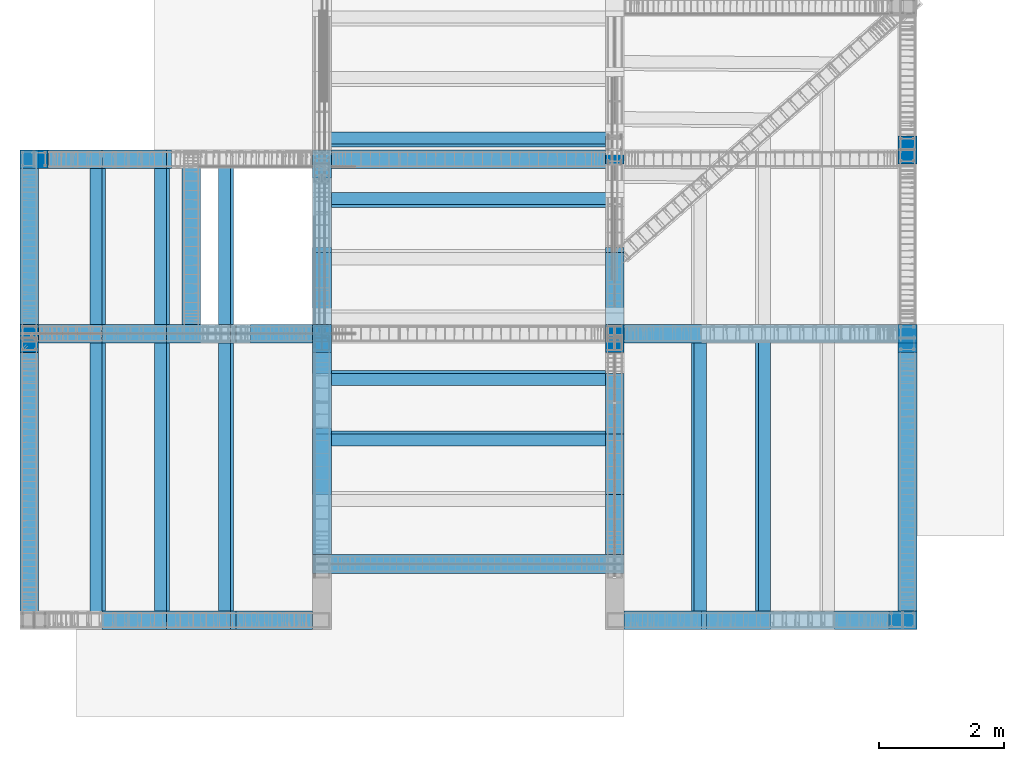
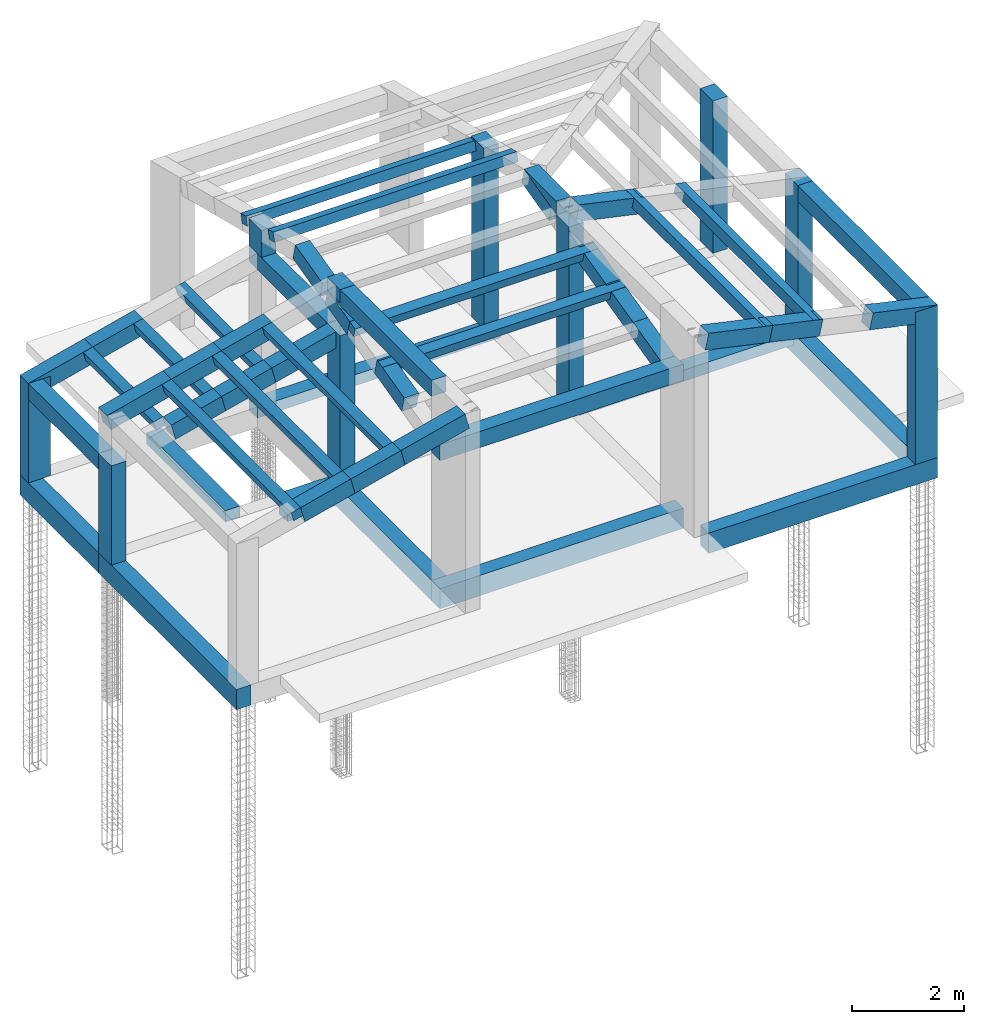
# One storey, part 1 of 15: 50 beams, 10 columns.
"""IFC4 building model written with IfcOpenShell, lengths in metres."""

from ifc_helpers import new_model, si_unit, frame, frame_2d, origin_with_axes, origin_2d_with_axis, place, context, project, spatial, rectangle, extrude, material, material_profile, profile_set, profile_usage, type_object, element, save


model = new_model("IFC4")

# Units and contexts
model_context = context("Model", 3, precision=1e-05, world=origin_with_axes())
ifc_project = project(units=[si_unit("LENGTHUNIT", "METRE"), si_unit("AREAUNIT", "SQUARE_METRE"), si_unit("VOLUMEUNIT", "CUBIC_METRE"), si_unit("MASSUNIT", "GRAM", prefix="KILO"), si_unit("TIMEUNIT", "SECOND"), si_unit("PLANEANGLEUNIT", "RADIAN"), si_unit("SOLIDANGLEUNIT", "STERADIAN"), si_unit("THERMODYNAMICTEMPERATUREUNIT", "DEGREE_CELSIUS")], contexts=[model_context])

# Site, building, storey
placement_1 = place(None, origin_with_axes())
site = spatial("IfcSite", under=ifc_project, at=placement_1, Name="Italia", CompositionType="ELEMENT")
building = spatial("IfcBuilding", under=site, at=placement_1, Name="Bifamiliare", CompositionType="ELEMENT")
storey_placement = place(None, frame((0.0, 0.0, 5.949999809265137), z_axis=(0.0, 0.0, 1.0), x_axis=(1.0, 0.0, 0.0)))
storey = spatial("IfcBuildingStorey", under=building, at=storey_placement, Name="Storey 2", CompositionType="ELEMENT", Elevation=5.949999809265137)

# Columns
ifc_material_1 = material(Name="Calcestruzzo", Category="Calcestruzzo")
ifc_material_profile_1 = material_profile(ifc_material_1, rectangle(XDim=0.3, YDim=0.55, at=frame_2d((0.0, 0.0), x_axis=(0.0, 1.0))), Name="9 Pil 55x30")
ifc_profile_set_1 = profile_set([ifc_material_profile_1])
ifc_profile_usage_1 = profile_usage(ifc_profile_set_1, cardinal=3)
column_type_1 = type_object("IfcColumnType", Name="8 Pil 30x45", PredefinedType="COLUMN", material=ifc_profile_usage_1)
placement_2 = place(placement_1, origin_with_axes())
column_1_placement = place(placement_2, origin_with_axes())
element("IfcColumn", 1, at=column_1_placement, inside=storey, type_object=column_type_1, Name="7", context=model_context, shape_type="SweptSolid", body=[
    extrude(rectangle(XDim=0.3, YDim=0.45, at=origin_2d_with_axis()), frame((1.325, 8.95, 5.95), z_axis=(0.0, 0.0, 1.0), x_axis=(0.0, 1.0, 0.0)), (0.0, 0.0, 1.0), 2.16),
])
ifc_profile_usage_2 = profile_usage(ifc_profile_set_1, cardinal=7)
column_type_2 = type_object("IfcColumnType", Name="8 Pil 30x45", PredefinedType="COLUMN", material=ifc_profile_usage_2)
column_2_placement = place(placement_2, origin_with_axes())
element("IfcColumn", 2, at=column_2_placement, inside=storey, type_object=column_type_2, Name="2", context=model_context, shape_type="SweptSolid", body=[
    extrude(rectangle(XDim=0.3, YDim=0.45, at=origin_2d_with_axis()), frame((15.275, 1.55, 5.95), z_axis=(0.0, 0.0, 1.0), x_axis=(0.0, 1.0, 0.0)), (0.0, 0.0, 1.0), 3.31),
])
ifc_profile_usage_3 = profile_usage(ifc_profile_set_1, cardinal=3)
column_type_3 = type_object("IfcColumnType", Name="7 Pil 45x30", PredefinedType="COLUMN", material=ifc_profile_usage_3)
column_3_placement = place(placement_2, origin_with_axes())
element("IfcColumn", 3, at=column_3_placement, inside=storey, type_object=column_type_3, Name="3", context=model_context, shape_type="SweptSolid", body=[
    extrude(rectangle(XDim=0.3, YDim=0.45, at=frame_2d((0.0, 0.0), x_axis=(0.0, 1.0))), frame((1.25, 6.075, 5.95), z_axis=(0.0, 0.0, 1.0), x_axis=(0.0, 1.0, 0.0)), (0.0, 0.0, 1.0), 2.16),
])
ifc_profile_usage_4 = profile_usage(ifc_profile_set_1, cardinal=9)
column_type_4 = type_object("IfcColumnType", Name="7 Pil 45x30", PredefinedType="COLUMN", material=ifc_profile_usage_4)
column_4_placement = place(placement_2, origin_with_axes())
element("IfcColumn", 4, at=column_4_placement, inside=storey, type_object=column_type_4, Name="6", context=model_context, shape_type="SweptSolid", body=[
    extrude(rectangle(XDim=0.3, YDim=0.45, at=frame_2d((0.0, 0.0), x_axis=(0.0, 1.0))), frame((15.35, 6.075, 5.95), z_axis=(0.0, 0.0, 1.0), x_axis=(0.0, 1.0, 0.0)), (0.0, 0.0, 1.0), 3.31),
])
ifc_profile_usage_5 = profile_usage(ifc_profile_set_1, cardinal=8)
column_type_5 = type_object("IfcColumnType", Name="7 Pil 45x30", PredefinedType="COLUMN", material=ifc_profile_usage_5)
column_5_placement = place(placement_2, origin_with_axes())
element("IfcColumn", 5, at=column_5_placement, inside=storey, type_object=column_type_5, Name="10", context=model_context, shape_type="SweptSolid", body=[
    extrude(rectangle(XDim=0.3, YDim=0.45, at=frame_2d((0.0, 0.0), x_axis=(0.0, 1.0))), frame((15.35, 9.1, 5.95), z_axis=(0.0, 0.0, 1.0), x_axis=(0.0, 1.0, 0.0)), (0.0, 0.0, 1.0), 3.31),
])
ifc_profile_usage_6 = profile_usage(ifc_profile_set_1, cardinal=3)
column_type_6 = type_object("IfcColumnType", Name="7 Pil 45x30", PredefinedType="COLUMN", material=ifc_profile_usage_6)
column_6_placement = place(placement_2, origin_with_axes())
element("IfcColumn", 6, at=column_6_placement, inside=storey, type_object=column_type_6, Name="8", context=model_context, shape_type="SweptSolid", body=[
    extrude(rectangle(XDim=0.3, YDim=0.45, at=frame_2d((0.0, 0.0), x_axis=(0.0, 1.0))), frame((5.95, 8.875, 9.29), z_axis=(0.0, 0.0, 1.0), x_axis=(0.0, 1.0, 0.0)), (0.0, 0.0, 1.0), 0.586699),
])
ifc_profile_usage_7 = profile_usage(ifc_profile_set_1, cardinal=3)
column_type_7 = type_object("IfcColumnType", Name="7 Pil 45x30", PredefinedType="COLUMN", material=ifc_profile_usage_7)
column_7_placement = place(placement_2, origin_with_axes())
element("IfcColumn", 7, at=column_7_placement, inside=storey, type_object=column_type_7, Name="4", context=model_context, shape_type="SweptSolid", body=[
    extrude(rectangle(XDim=0.3, YDim=0.45, at=frame_2d((0.0, 0.0), x_axis=(0.0, 1.0))), frame((5.95, 6.075, 5.95), z_axis=(0.0, 0.0, 1.0), x_axis=(0.0, 1.0, 0.0)), (0.0, 0.0, 1.0), 3.34),
])
ifc_profile_usage_8 = profile_usage(ifc_profile_set_1, cardinal=3)
column_type_8 = type_object("IfcColumnType", Name="7 Pil 45x30", PredefinedType="COLUMN", material=ifc_profile_usage_8)
column_8_placement = place(placement_2, origin_with_axes())
element("IfcColumn", 8, at=column_8_placement, inside=storey, type_object=column_type_8, Name="4", context=model_context, shape_type="SweptSolid", body=[
    extrude(rectangle(XDim=0.3, YDim=0.45, at=frame_2d((0.0, 0.0), x_axis=(0.0, 1.0))), frame((5.95, 6.075, 10.0021), z_axis=(0.0, 0.0, 1.0), x_axis=(0.0, 1.0, 0.0)), (0.0, 0.0, 1.0), 0.287938),
])
ifc_profile_usage_9 = profile_usage(ifc_profile_set_1, cardinal=9)
column_type_9 = type_object("IfcColumnType", Name="7 Pil 45x30", PredefinedType="COLUMN", material=ifc_profile_usage_9)
column_9_placement = place(placement_2, origin_with_axes())
element("IfcColumn", 9, at=column_9_placement, inside=storey, type_object=column_type_9, Name="5", context=model_context, shape_type="SweptSolid", body=[
    extrude(rectangle(XDim=0.3, YDim=0.45, at=frame_2d((0.0, 0.0), x_axis=(0.0, 1.0))), frame((10.65, 6.075, 5.95), z_axis=(0.0, 0.0, 1.0), x_axis=(0.0, 1.0, 0.0)), (0.0, 0.0, 1.0), 4.05),
])
ifc_profile_usage_10 = profile_usage(ifc_profile_set_1, cardinal=8)
column_type_10 = type_object("IfcColumnType", Name="7 Pil 45x30", PredefinedType="COLUMN", material=ifc_profile_usage_10)
column_10_placement = place(placement_2, origin_with_axes())
element("IfcColumn", 10, at=column_10_placement, inside=storey, type_object=column_type_10, Name="9", context=model_context, shape_type="SweptSolid", body=[
    extrude(rectangle(XDim=0.3, YDim=0.45, at=frame_2d((0.0, 0.0), x_axis=(0.0, 1.0))), frame((10.65, 9.1, 5.95), z_axis=(0.0, 0.0, 1.0), x_axis=(0.0, 1.0, 0.0)), (0.0, 0.0, 1.0), 3.9267),
])

# Beams
ifc_material_2 = material(Name="Legname a media elasticità", Category="Legname a media elasticità")
ifc_material_profile_2 = material_profile(ifc_material_2, rectangle(XDim=0.2, YDim=0.2, at=frame_2d((0.0, 0.0), x_axis=(0.967738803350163, -0.251955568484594))), Name="6 Tr 20x20")
ifc_profile_set_2 = profile_set([ifc_material_profile_2])
beam_type_1 = type_object("IfcBeamType", Name="6 Tr 20x20", PredefinedType="BEAM", material=ifc_profile_set_2)
beam_1_placement = place(placement_2, origin_with_axes())
element("IfcBeam", 11, at=beam_1_placement, inside=storey, type_object=beam_type_1, Name="349", context=model_context, shape_type="SweptSolid", body=[
    extrude(rectangle(XDim=0.2, YDim=0.2, at=frame_2d((0.0, 0.0), x_axis=(0.967738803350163, -0.251955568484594))), frame((2.34842, 6.3, 8.31943), z_axis=(0.0, 1.0, 0.0), x_axis=(-1.0, 0.0, 0.0)), (0.0, 0.0, 1.0), 2.8),
])
ifc_profile_usage_11 = profile_usage(ifc_profile_set_2, cardinal=1)
beam_type_2 = type_object("IfcBeamType", Name="6 Tr 20x20", PredefinedType="BEAM", material=ifc_profile_usage_11)
beam_2_placement = place(placement_2, origin_with_axes())
element("IfcBeam", 12, at=beam_2_placement, inside=storey, type_object=beam_type_2, Name="350", context=model_context, shape_type="SweptSolid", body=[
    extrude(rectangle(XDim=0.2, YDim=0.2, at=frame_2d((0.0, 0.0), x_axis=(0.967738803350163, -0.251955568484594))), frame((3.37842, 6.3, 8.57803), z_axis=(0.0, 1.0, 0.0), x_axis=(-1.0, 0.0, 0.0)), (0.0, 0.0, 1.0), 2.8),
])
ifc_profile_usage_12 = profile_usage(ifc_profile_set_2, cardinal=1)
beam_type_3 = type_object("IfcBeamType", Name="6 Tr 20x20", PredefinedType="BEAM", material=ifc_profile_usage_12)
beam_3_placement = place(placement_2, origin_with_axes())
element("IfcBeam", 13, at=beam_3_placement, inside=storey, type_object=beam_type_3, Name="352", context=model_context, shape_type="SweptSolid", body=[
    extrude(rectangle(XDim=0.2, YDim=0.2, at=frame_2d((0.0, 0.0), x_axis=(0.967738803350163, -0.251955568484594))), frame((4.40842, 6.3, 8.83663), z_axis=(0.0, 1.0, 0.0), x_axis=(-1.0, 0.0, 0.0)), (0.0, 0.0, 1.0), 2.8),
])
ifc_profile_usage_13 = profile_usage(ifc_profile_set_2, cardinal=1)
beam_type_4 = type_object("IfcBeamType", Name="6 Tr 20x20", PredefinedType="BEAM", material=ifc_profile_usage_13)
beam_4_placement = place(placement_2, origin_with_axes())
element("IfcBeam", 14, at=beam_4_placement, inside=storey, type_object=beam_type_4, Name="305", context=model_context, shape_type="SweptSolid", body=[
    extrude(rectangle(XDim=0.2, YDim=0.2, at=frame_2d((0.0, 0.0), x_axis=(0.970728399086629, -0.240179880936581))), frame((10.8, 5.43695, 9.68317), z_axis=(-1.0, 0.0, 0.0), x_axis=(0.0, -1.0, 0.0)), (0.0, 0.0, 1.0), 5.0),
])
ifc_profile_usage_14 = profile_usage(ifc_profile_set_2, cardinal=1)
beam_type_5 = type_object("IfcBeamType", Name="6 Tr 20x20", PredefinedType="BEAM", material=ifc_profile_usage_14)
beam_5_placement = place(placement_2, origin_with_axes())
element("IfcBeam", 15, at=beam_5_placement, inside=storey, type_object=beam_type_5, Name="304", context=model_context, shape_type="SweptSolid", body=[
    extrude(rectangle(XDim=0.2, YDim=0.2, at=frame_2d((0.0, 0.0), x_axis=(0.970728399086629, -0.240179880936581))), frame((10.8, 4.46695, 9.4403), z_axis=(-1.0, 0.0, 0.0), x_axis=(0.0, -1.0, 0.0)), (0.0, 0.0, 1.0), 5.0),
])
ifc_profile_usage_15 = profile_usage(ifc_profile_set_2, cardinal=1)
beam_type_6 = type_object("IfcBeamType", Name="6 Tr 20x20", PredefinedType="BEAM", material=ifc_profile_usage_15)
beam_6_placement = place(placement_2, origin_with_axes())
element("IfcBeam", 16, at=beam_6_placement, inside=storey, type_object=beam_type_6, Name="309", context=model_context, shape_type="SweptSolid", body=[
    extrude(rectangle(XDim=0.2, YDim=0.2, at=frame_2d((0.0, 0.0), x_axis=(0.967074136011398, 0.254494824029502))), frame((10.8, 8.29784, 9.97577), z_axis=(-1.0, 0.0, 0.0), x_axis=(0.0, -1.0, 0.0)), (0.0, 0.0, 1.0), 5.0),
])
ifc_profile_usage_16 = profile_usage(ifc_profile_set_2, cardinal=1)
beam_type_7 = type_object("IfcBeamType", Name="6 Tr 20x20", PredefinedType="BEAM", material=ifc_profile_usage_16)
beam_7_placement = place(placement_2, origin_with_axes())
element("IfcBeam", 17, at=beam_7_placement, inside=storey, type_object=beam_type_7, Name="311", context=model_context, shape_type="SweptSolid", body=[
    extrude(rectangle(XDim=0.2, YDim=0.2, at=frame_2d((0.0, 0.0), x_axis=(0.967074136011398, 0.254494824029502))), frame((10.8, 9.26784, 9.7328), z_axis=(-1.0, 0.0, 0.0), x_axis=(0.0, -1.0, 0.0)), (0.0, 0.0, 1.0), 5.0),
])
ifc_profile_usage_17 = profile_usage(ifc_profile_set_2, cardinal=1)
beam_type_8 = type_object("IfcBeamType", Name="6 Tr 20x20", PredefinedType="BEAM", material=ifc_profile_usage_17)
beam_8_placement = place(placement_2, origin_with_axes())
element("IfcBeam", 18, at=beam_8_placement, inside=storey, type_object=beam_type_8, Name="318", context=model_context, shape_type="SweptSolid", body=[
    extrude(rectangle(XDim=0.2, YDim=0.2, at=frame_2d((0.0, 0.0), x_axis=(0.967738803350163, -0.251955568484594))), frame((2.34842, 1.4, 9.31943), z_axis=(0.0, 1.0, 0.0), x_axis=(-1.0, 0.0, 0.0)), (0.0, 0.0, 1.0), 4.9),
])
ifc_profile_usage_18 = profile_usage(ifc_profile_set_2, cardinal=1)
beam_type_9 = type_object("IfcBeamType", Name="6 Tr 20x20", PredefinedType="BEAM", material=ifc_profile_usage_18)
beam_9_placement = place(placement_2, origin_with_axes())
element("IfcBeam", 19, at=beam_9_placement, inside=storey, type_object=beam_type_9, Name="321", context=model_context, shape_type="SweptSolid", body=[
    extrude(rectangle(XDim=0.2, YDim=0.2, at=frame_2d((0.0, 0.0), x_axis=(0.967738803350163, -0.251955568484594))), frame((4.40842, 1.4, 9.83663), z_axis=(0.0, 1.0, 0.0), x_axis=(-1.0, 0.0, 0.0)), (0.0, 0.0, 1.0), 4.9),
])
ifc_profile_usage_19 = profile_usage(ifc_profile_set_2, cardinal=1)
beam_type_10 = type_object("IfcBeamType", Name="6 Tr 20x20", PredefinedType="BEAM", material=ifc_profile_usage_19)
beam_10_placement = place(placement_2, origin_with_axes())
element("IfcBeam", 20, at=beam_10_placement, inside=storey, type_object=beam_type_10, Name="324", context=model_context, shape_type="SweptSolid", body=[
    extrude(rectangle(XDim=0.2, YDim=0.2, at=frame_2d((0.0, 0.0), x_axis=(0.976706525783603, 0.21457950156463))), frame((12.0009, 1.4, 9.92451), z_axis=(0.0, 1.0, 0.0), x_axis=(-1.0, 0.0, 0.0)), (0.0, 0.0, 1.0), 4.9),
])
ifc_profile_usage_20 = profile_usage(ifc_profile_set_2, cardinal=1)
beam_type_11 = type_object("IfcBeamType", Name="6 Tr 20x20", PredefinedType="BEAM", material=ifc_profile_usage_20)
beam_11_placement = place(placement_2, origin_with_axes())
element("IfcBeam", 21, at=beam_11_placement, inside=storey, type_object=beam_type_11, Name="319", context=model_context, shape_type="SweptSolid", body=[
    extrude(rectangle(XDim=0.2, YDim=0.2, at=frame_2d((0.0, 0.0), x_axis=(0.967738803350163, -0.251955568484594))), frame((3.37842, 1.4, 9.57803), z_axis=(0.0, 1.0, 0.0), x_axis=(-1.0, 0.0, 0.0)), (0.0, 0.0, 1.0), 4.9),
])
ifc_profile_usage_21 = profile_usage(ifc_profile_set_2, cardinal=1)
beam_type_12 = type_object("IfcBeamType", Name="6 Tr 20x20", PredefinedType="BEAM", material=ifc_profile_usage_21)
beam_12_placement = place(placement_2, origin_with_axes())
element("IfcBeam", 22, at=beam_12_placement, inside=storey, type_object=beam_type_12, Name="325", context=model_context, shape_type="SweptSolid", body=[
    extrude(rectangle(XDim=0.2, YDim=0.2, at=frame_2d((0.0, 0.0), x_axis=(0.976706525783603, 0.21457950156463))), frame((13.0309, 1.4, 9.69879), z_axis=(0.0, 1.0, 0.0), x_axis=(-1.0, 0.0, 0.0)), (0.0, 0.0, 1.0), 4.9),
])
ifc_profile_usage_22 = profile_usage(ifc_profile_set_1, cardinal=1)
beam_type_13 = type_object("IfcBeamType", Name="4 Tr 30x35", PredefinedType="BEAM", material=ifc_profile_usage_22)
beam_13_placement = place(placement_2, origin_with_axes())
element("IfcBeam", 23, at=beam_13_placement, inside=storey, type_object=beam_type_13, Name="322", context=model_context, shape_type="SweptSolid", body=[
    extrude(rectangle(XDim=0.3, YDim=0.35, at=origin_2d_with_axis()), frame((5.95, 6.3, 10.115), z_axis=(0.0, -1.0, 0.0), x_axis=(1.0, 0.0, 0.0)), (0.0, 0.0, 1.0), 3.7),
])
ifc_profile_usage_23 = profile_usage(ifc_profile_set_1, cardinal=1)
beam_type_14 = type_object("IfcBeamType", Name="4 Tr 30x35", PredefinedType="BEAM", material=ifc_profile_usage_23)
beam_14_placement = place(placement_2, origin_with_axes())
element("IfcBeam", 24, at=beam_14_placement, inside=storey, type_object=beam_type_14, Name="353", context=model_context, shape_type="SweptSolid", body=[
    extrude(rectangle(XDim=0.3, YDim=0.35, at=origin_2d_with_axis()), frame((5.95, 6.3425, 9.8323), z_axis=(0.0, -0.970055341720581, -0.242884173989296), x_axis=(1.0, 0.0, 0.0)), (0.0, 0.0, 1.0), 0.814386),
])
ifc_profile_usage_24 = profile_usage(ifc_profile_set_1, cardinal=1)
beam_type_15 = type_object("IfcBeamType", Name="4 Tr 30x35", PredefinedType="BEAM", material=ifc_profile_usage_24)
beam_15_placement = place(placement_2, origin_with_axes())
element("IfcBeam", 25, at=beam_15_placement, inside=storey, type_object=beam_type_15, Name="353", context=model_context, shape_type="SweptSolid", body=[
    extrude(rectangle(XDim=0.3, YDim=0.35, at=origin_2d_with_axis()), frame((5.95, 4.5825, 9.39163), z_axis=(0.0, -0.970055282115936, -0.242884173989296), x_axis=(1.0, 0.0, 0.0)), (0.0, 0.0, 1.0), 0.999943),
])
ifc_profile_usage_25 = profile_usage(ifc_profile_set_1, cardinal=3)
beam_type_16 = type_object("IfcBeamType", Name="4 Tr 30x35", PredefinedType="BEAM", material=ifc_profile_usage_25)
beam_16_placement = place(placement_2, origin_with_axes())
element("IfcBeam", 26, at=beam_16_placement, inside=storey, type_object=beam_type_16, Name="354", context=model_context, shape_type="SweptSolid", body=[
    extrude(rectangle(XDim=0.3, YDim=0.35, at=origin_2d_with_axis()), frame((10.65, 7.4925, 10.1202), z_axis=(0.0, -0.970055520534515, -0.242883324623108), x_axis=(1.0, 0.0, 0.0)), (0.0, 0.0, 1.0), 0.999943),
])
ifc_profile_usage_26 = profile_usage(ifc_profile_set_1, cardinal=3)
beam_type_17 = type_object("IfcBeamType", Name="4 Tr 30x35", PredefinedType="BEAM", material=ifc_profile_usage_26)
beam_17_placement = place(placement_2, origin_with_axes())
element("IfcBeam", 27, at=beam_17_placement, inside=storey, type_object=beam_type_17, Name="354", context=model_context, shape_type="SweptSolid", body=[
    extrude(rectangle(XDim=0.3, YDim=0.35, at=origin_2d_with_axis()), frame((10.65, 3.6125, 9.14876), z_axis=(0.0, -0.970055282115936, -0.242884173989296), x_axis=(1.0, 0.0, 0.0)), (0.0, 0.0, 1.0), 0.999943),
])
ifc_profile_usage_27 = profile_usage(ifc_profile_set_1, cardinal=3)
beam_type_18 = type_object("IfcBeamType", Name="4 Tr 30x35", PredefinedType="BEAM", material=ifc_profile_usage_27)
beam_18_placement = place(placement_2, origin_with_axes())
element("IfcBeam", 28, at=beam_18_placement, inside=storey, type_object=beam_type_18, Name="354", context=model_context, shape_type="SweptSolid", body=[
    extrude(rectangle(XDim=0.3, YDim=0.35, at=origin_2d_with_axis()), frame((10.65, 4.5825, 9.39163), z_axis=(0.0, -0.970055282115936, -0.242884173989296), x_axis=(1.0, 0.0, 0.0)), (0.0, 0.0, 1.0), 0.999943),
])
ifc_profile_usage_28 = profile_usage(ifc_profile_set_1, cardinal=1)
beam_type_19 = type_object("IfcBeamType", Name="4 Tr 30x35", PredefinedType="BEAM", material=ifc_profile_usage_28)
beam_19_placement = place(placement_2, origin_with_axes())
element("IfcBeam", 29, at=beam_19_placement, inside=storey, type_object=beam_type_19, Name="332", context=model_context, shape_type="SweptSolid", body=[
    extrude(rectangle(XDim=0.3, YDim=0.35, at=origin_2d_with_axis()), frame((14.1425, 1.55, 9.37833), z_axis=(0.97681850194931, 0.0, -0.21406914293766), x_axis=(0.0, 1.0, 0.0)), (0.0, 0.0, 1.0), 1.35133),
])
ifc_profile_usage_29 = profile_usage(ifc_profile_set_1, cardinal=1)
beam_type_20 = type_object("IfcBeamType", Name="4 Tr 30x35", PredefinedType="BEAM", material=ifc_profile_usage_29)
beam_20_placement = place(placement_2, origin_with_axes())
element("IfcBeam", 30, at=beam_20_placement, inside=storey, type_object=beam_type_20, Name="332", context=model_context, shape_type="SweptSolid", body=[
    extrude(rectangle(XDim=0.3, YDim=0.35, at=origin_2d_with_axis()), frame((10.7625, 1.55, 10.1191), z_axis=(0.976818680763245, 0.0, -0.214068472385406), x_axis=(0.0, 1.0, 0.0)), (0.0, 0.0, 1.0), 1.35133),
])
ifc_profile_usage_30 = profile_usage(ifc_profile_set_1, cardinal=1)
beam_type_21 = type_object("IfcBeamType", Name="4 Tr 30x35", PredefinedType="BEAM", material=ifc_profile_usage_30)
beam_21_placement = place(placement_2, origin_with_axes())
element("IfcBeam", 31, at=beam_21_placement, inside=storey, type_object=beam_type_21, Name="368", context=model_context, shape_type="SweptSolid", body=[
    extrude(rectangle(XDim=0.3, YDim=0.35, at=origin_2d_with_axis()), frame((12.0825, 6.15, 9.82978), z_axis=(-0.976818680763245, 0.0, 0.214068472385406), x_axis=(0.0, -1.0, 0.0)), (0.0, 0.0, 1.0), 1.35133),
])
ifc_profile_usage_31 = profile_usage(ifc_profile_set_1, cardinal=1)
beam_type_22 = type_object("IfcBeamType", Name="4 Tr 30x35", PredefinedType="BEAM", material=ifc_profile_usage_31)
beam_22_placement = place(placement_2, origin_with_axes())
element("IfcBeam", 32, at=beam_22_placement, inside=storey, type_object=beam_type_22, Name="353", context=model_context, shape_type="SweptSolid", body=[
    extrude(rectangle(XDim=0.3, YDim=0.35, at=origin_2d_with_axis()), frame((5.95, 7.4925, 10.1202), z_axis=(0.0, -0.970055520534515, -0.242883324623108), x_axis=(1.0, 0.0, 0.0)), (0.0, 0.0, 1.0), 0.999943),
])
ifc_profile_usage_32 = profile_usage(ifc_profile_set_1, cardinal=1)
beam_type_23 = type_object("IfcBeamType", Name="4 Tr 30x35", PredefinedType="BEAM", material=ifc_profile_usage_32)
beam_23_placement = place(placement_2, origin_with_axes())
element("IfcBeam", 33, at=beam_23_placement, inside=storey, type_object=beam_type_23, Name="301", context=model_context, shape_type="SweptSolid", body=[
    extrude(rectangle(XDim=0.3, YDim=0.35, at=origin_2d_with_axis()), frame((3.49261, 1.55, 9.53027), z_axis=(0.969899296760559, 0.0, 0.243506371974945), x_axis=(0.0, 1.0, 0.0)), (0.0, 0.0, 1.0), 1.06197),
])
ifc_profile_usage_33 = profile_usage(ifc_profile_set_1, cardinal=1)
beam_type_24 = type_object("IfcBeamType", Name="4 Tr 30x35", PredefinedType="BEAM", material=ifc_profile_usage_33)
beam_24_placement = place(placement_2, origin_with_axes())
element("IfcBeam", 34, at=beam_24_placement, inside=storey, type_object=beam_type_24, Name="301", context=model_context, shape_type="SweptSolid", body=[
    extrude(rectangle(XDim=0.3, YDim=0.35, at=origin_2d_with_axis()), frame((4.52261, 1.55, 9.78886), z_axis=(0.96989917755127, 0.0, 0.243506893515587), x_axis=(0.0, 1.0, 0.0)), (0.0, 0.0, 1.0), 1.36097),
])
ifc_profile_usage_34 = profile_usage(ifc_profile_set_1, cardinal=1)
beam_type_25 = type_object("IfcBeamType", Name="4 Tr 30x35", PredefinedType="BEAM", material=ifc_profile_usage_34)
beam_25_placement = place(placement_2, origin_with_axes())
element("IfcBeam", 35, at=beam_25_placement, inside=storey, type_object=beam_type_25, Name="306", context=model_context, shape_type="SweptSolid", body=[
    extrude(rectangle(XDim=0.3, YDim=0.35, at=origin_2d_with_axis()), frame((3.49261, 6.15, 9.53027), z_axis=(-0.969899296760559, 0.0, -0.243506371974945), x_axis=(0.0, -1.0, 0.0)), (0.0, 0.0, 1.0), 1.06197),
])
ifc_profile_usage_35 = profile_usage(ifc_profile_set_1, cardinal=1)
beam_type_26 = type_object("IfcBeamType", Name="4 Tr 30x35", PredefinedType="BEAM", material=ifc_profile_usage_35)
beam_26_placement = place(placement_2, origin_with_axes())
element("IfcBeam", 36, at=beam_26_placement, inside=storey, type_object=beam_type_26, Name="306", context=model_context, shape_type="SweptSolid", body=[
    extrude(rectangle(XDim=0.3, YDim=0.35, at=origin_2d_with_axis()), frame((2.46261, 6.15, 9.27167), z_axis=(-0.96989917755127, 0.0, -0.243506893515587), x_axis=(0.0, -1.0, 0.0)), (0.0, 0.0, 1.0), 1.36097),
])
ifc_profile_usage_36 = profile_usage(ifc_profile_set_1, cardinal=1)
beam_type_27 = type_object("IfcBeamType", Name="4 Tr 30x35", PredefinedType="BEAM", material=ifc_profile_usage_36)
beam_27_placement = place(placement_2, origin_with_axes())
element("IfcBeam", 37, at=beam_27_placement, inside=storey, type_object=beam_type_27, Name="310", context=model_context, shape_type="SweptSolid", body=[
    extrude(rectangle(XDim=0.3, YDim=0.35, at=origin_2d_with_axis()), frame((3.49261, 8.95, 8.53027), z_axis=(-0.969899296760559, 0.0, -0.243506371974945), x_axis=(0.0, -1.0, 0.0)), (0.0, 0.0, 1.0), 1.06197),
])
ifc_profile_usage_37 = profile_usage(ifc_profile_set_1, cardinal=1)
beam_type_28 = type_object("IfcBeamType", Name="4 Tr 30x35", PredefinedType="BEAM", material=ifc_profile_usage_37)
beam_28_placement = place(placement_2, origin_with_axes())
element("IfcBeam", 38, at=beam_28_placement, inside=storey, type_object=beam_type_28, Name="310", context=model_context, shape_type="SweptSolid", body=[
    extrude(rectangle(XDim=0.3, YDim=0.35, at=origin_2d_with_axis()), frame((2.46261, 8.95, 8.27167), z_axis=(-0.96989917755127, 0.0, -0.243506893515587), x_axis=(0.0, -1.0, 0.0)), (0.0, 0.0, 1.0), 1.36097),
])
ifc_profile_usage_38 = profile_usage(ifc_profile_set_1, cardinal=3)
beam_type_29 = type_object("IfcBeamType", Name="4 Tr 30x35", PredefinedType="BEAM", material=ifc_profile_usage_38)
beam_29_placement = place(placement_2, origin_with_axes())
element("IfcBeam", 39, at=beam_29_placement, inside=storey, type_object=beam_type_29, Name="337", context=model_context, shape_type="SweptSolid", body=[
    extrude(rectangle(XDim=0.3, YDim=0.35, at=origin_2d_with_axis()), frame((3.49261, 6.15, 8.53027), z_axis=(0.96989905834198, 0.0, 0.243507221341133), x_axis=(0.0, 1.0, 0.0)), (0.0, 0.0, 1.0), 1.06197),
])
ifc_profile_usage_39 = profile_usage(ifc_profile_set_1, cardinal=3)
beam_type_30 = type_object("IfcBeamType", Name="4 Tr 30x35", PredefinedType="BEAM", material=ifc_profile_usage_39)
beam_30_placement = place(placement_2, origin_with_axes())
element("IfcBeam", 40, at=beam_30_placement, inside=storey, type_object=beam_type_30, Name="337", context=model_context, shape_type="SweptSolid", body=[
    extrude(rectangle(XDim=0.3, YDim=0.35, at=origin_2d_with_axis()), frame((4.52261, 6.15, 8.78886), z_axis=(0.969899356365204, 0.0, 0.243506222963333), x_axis=(0.0, 1.0, 0.0)), (0.0, 0.0, 1.0), 1.36097),
])
ifc_profile_usage_40 = profile_usage(ifc_profile_set_1, cardinal=1)
beam_type_31 = type_object("IfcBeamType", Name="4 Tr 30x35", PredefinedType="BEAM", material=ifc_profile_usage_40)
beam_31_placement = place(placement_2, origin_with_axes())
element("IfcBeam", 41, at=beam_31_placement, inside=storey, type_object=beam_type_31, Name="301", context=model_context, shape_type="SweptSolid", body=[
    extrude(rectangle(XDim=0.3, YDim=0.35, at=origin_2d_with_axis()), frame((2.46261, 1.55, 9.27167), z_axis=(0.969899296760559, 0.0, 0.243506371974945), x_axis=(0.0, 1.0, 0.0)), (0.0, 0.0, 1.0), 1.06197),
])
ifc_profile_usage_41 = profile_usage(ifc_profile_set_1, cardinal=1)
beam_type_32 = type_object("IfcBeamType", Name="4 Tr 30x35", PredefinedType="BEAM", material=ifc_profile_usage_41)
beam_32_placement = place(placement_2, origin_with_axes())
element("IfcBeam", 42, at=beam_32_placement, inside=storey, type_object=beam_type_32, Name="306", context=model_context, shape_type="SweptSolid", body=[
    extrude(rectangle(XDim=0.3, YDim=0.35, at=origin_2d_with_axis()), frame((4.52261, 6.15, 9.78886), z_axis=(-0.969899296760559, 0.0, -0.243506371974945), x_axis=(0.0, -1.0, 0.0)), (0.0, 0.0, 1.0), 1.06197),
])
ifc_profile_usage_42 = profile_usage(ifc_profile_set_1, cardinal=3)
beam_type_33 = type_object("IfcBeamType", Name="4 Tr 30x35", PredefinedType="BEAM", material=ifc_profile_usage_42)
beam_33_placement = place(placement_2, origin_with_axes())
element("IfcBeam", 43, at=beam_33_placement, inside=storey, type_object=beam_type_33, Name="384", context=model_context, shape_type="SweptSolid", body=[
    extrude(rectangle(XDim=0.3, YDim=0.35, at=origin_2d_with_axis()), frame((5.95, 6.3, 9.115), z_axis=(0.0, 1.0, 0.0), x_axis=(-1.0, 0.0, 0.0)), (0.0, 0.0, 1.0), 2.8),
])
ifc_profile_usage_43 = profile_usage(ifc_profile_set_1, cardinal=1)
beam_type_34 = type_object("IfcBeamType", Name="4 Tr 30x35", PredefinedType="BEAM", material=ifc_profile_usage_43)
beam_34_placement = place(placement_2, origin_with_axes())
element("IfcBeam", 44, at=beam_34_placement, inside=storey, type_object=beam_type_34, Name="348", context=model_context, shape_type="SweptSolid", body=[
    extrude(rectangle(XDim=0.3, YDim=0.35, at=origin_2d_with_axis()), frame((1.25, 9.1, 7.935), z_axis=(0.0, -1.0, 0.0), x_axis=(1.0, 0.0, 0.0)), (0.0, 0.0, 1.0), 2.8),
])
ifc_profile_usage_44 = profile_usage(ifc_profile_set_1, cardinal=3)
beam_type_35 = type_object("IfcBeamType", Name="4 Tr 30x35", PredefinedType="BEAM", material=ifc_profile_usage_44)
beam_35_placement = place(placement_2, origin_with_axes())
element("IfcBeam", 45, at=beam_35_placement, inside=storey, type_object=beam_type_35, Name="337", context=model_context, shape_type="SweptSolid", body=[
    extrude(rectangle(XDim=0.3, YDim=0.35, at=origin_2d_with_axis()), frame((2.46261, 6.15, 8.27167), z_axis=(0.969899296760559, 0.0, 0.243506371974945), x_axis=(0.0, 1.0, 0.0)), (0.0, 0.0, 1.0), 1.06197),
])
ifc_profile_usage_45 = profile_usage(ifc_profile_set_1, cardinal=1)
beam_type_36 = type_object("IfcBeamType", Name="4 Tr 30x35", PredefinedType="BEAM", material=ifc_profile_usage_45)
beam_36_placement = place(placement_2, origin_with_axes())
element("IfcBeam", 46, at=beam_36_placement, inside=storey, type_object=beam_type_36, Name="332", context=model_context, shape_type="SweptSolid", body=[
    extrude(rectangle(XDim=0.3, YDim=0.35, at=origin_2d_with_axis()), frame((12.0825, 1.55, 9.82978), z_axis=(0.976818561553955, 0.0, -0.214068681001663), x_axis=(0.0, 1.0, 0.0)), (0.0, 0.0, 1.0), 1.05444),
])
ifc_profile_usage_46 = profile_usage(ifc_profile_set_1, cardinal=1)
beam_type_37 = type_object("IfcBeamType", Name="4 Tr 30x35", PredefinedType="BEAM", material=ifc_profile_usage_46)
beam_37_placement = place(placement_2, origin_with_axes())
element("IfcBeam", 47, at=beam_37_placement, inside=storey, type_object=beam_type_37, Name="327", context=model_context, shape_type="SweptSolid", body=[
    extrude(rectangle(XDim=0.3, YDim=0.35, at=origin_2d_with_axis()), frame((15.35, 1.4, 9.085), z_axis=(0.0, 1.0, 0.0), x_axis=(-1.0, 0.0, 0.0)), (0.0, 0.0, 1.0), 4.9),
])
ifc_profile_usage_47 = profile_usage(ifc_profile_set_1, cardinal=3)
beam_type_38 = type_object("IfcBeamType", Name="4 Tr 30x35", PredefinedType="BEAM", material=ifc_profile_usage_47)
beam_38_placement = place(placement_2, origin_with_axes())
element("IfcBeam", 48, at=beam_38_placement, inside=storey, type_object=beam_type_38, Name="354", context=model_context, shape_type="SweptSolid", body=[
    extrude(rectangle(XDim=0.3, YDim=0.35, at=origin_2d_with_axis()), frame((10.65, 5.5525, 9.6345), z_axis=(0.0, -0.970055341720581, -0.242884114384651), x_axis=(1.0, 0.0, 0.0)), (0.0, 0.0, 1.0), 0.999943),
])
ifc_profile_usage_48 = profile_usage(ifc_profile_set_1, cardinal=1)
beam_type_39 = type_object("IfcBeamType", Name="4 Tr 30x35", PredefinedType="BEAM", material=ifc_profile_usage_48)
beam_39_placement = place(placement_2, origin_with_axes())
element("IfcBeam", 49, at=beam_39_placement, inside=storey, type_object=beam_type_39, Name="302", context=model_context, shape_type="SweptSolid", body=[
    extrude(rectangle(XDim=0.3, YDim=0.35, at=origin_2d_with_axis()), frame((10.8, 2.45, 8.90065), z_axis=(-1.0, 0.0, 0.0), x_axis=(0.0, -1.0, 0.0)), (0.0, 0.0, 1.0), 5.0),
])
ifc_profile_usage_49 = profile_usage(ifc_profile_set_1, cardinal=3)
beam_type_40 = type_object("IfcBeamType", Name="4 Tr 30x35", PredefinedType="BEAM", material=ifc_profile_usage_49)
beam_40_placement = place(placement_2, origin_with_axes())
element("IfcBeam", 50, at=beam_40_placement, inside=storey, type_object=beam_type_40, Name="323", context=model_context, shape_type="SweptSolid", body=[
    extrude(rectangle(XDim=0.3, YDim=0.35, at=origin_2d_with_axis()), frame((10.65, 7.45, 10.115), z_axis=(0.0, -1.0, 0.0), x_axis=(1.0, 0.0, 0.0)), (0.0, 0.0, 1.0), 1.15),
])
ifc_profile_usage_50 = profile_usage(ifc_profile_set_1, cardinal=1)
beam_type_41 = type_object("IfcBeamType", Name="3 Tr 30x44", PredefinedType="BEAM", material=ifc_profile_usage_50)
beam_41_placement = place(placement_2, origin_with_axes())
element("IfcBeam", 51, at=beam_41_placement, inside=storey, type_object=beam_type_41, Name="202", context=model_context, shape_type="SweptSolid", body=[
    extrude(rectangle(XDim=0.3, YDim=0.44, at=origin_2d_with_axis()), frame((10.8, 2.45, 5.73), z_axis=(-1.0, 0.0, 0.0), x_axis=(0.0, -1.0, 0.0)), (0.0, 0.0, 1.0), 5.0),
])
ifc_profile_usage_51 = profile_usage(ifc_profile_set_1, cardinal=1)
beam_type_42 = type_object("IfcBeamType", Name="3 Tr 30x44", PredefinedType="BEAM", material=ifc_profile_usage_51)
beam_42_placement = place(placement_2, origin_with_axes())
element("IfcBeam", 52, at=beam_42_placement, inside=storey, type_object=beam_type_42, Name="217", context=model_context, shape_type="SweptSolid", body=[
    extrude(rectangle(XDim=0.3, YDim=0.44, at=origin_2d_with_axis()), frame((1.25, 9.1, 5.73), z_axis=(0.0, -1.0, 0.0), x_axis=(1.0, 0.0, 0.0)), (0.0, 0.0, 1.0), 2.8),
])
ifc_profile_usage_52 = profile_usage(ifc_profile_set_1, cardinal=1)
beam_type_43 = type_object("IfcBeamType", Name="3 Tr 30x44", PredefinedType="BEAM", material=ifc_profile_usage_52)
beam_43_placement = place(placement_2, origin_with_axes())
element("IfcBeam", 53, at=beam_43_placement, inside=storey, type_object=beam_type_43, Name="217", context=model_context, shape_type="SweptSolid", body=[
    extrude(rectangle(XDim=0.3, YDim=0.44, at=origin_2d_with_axis()), frame((1.25, 6.3, 5.73), z_axis=(0.0, -1.0, 0.0), x_axis=(1.0, 0.0, 0.0)), (0.0, 0.0, 1.0), 4.9),
])
ifc_profile_usage_53 = profile_usage(ifc_profile_set_1, cardinal=1)
beam_type_44 = type_object("IfcBeamType", Name="3 Tr 30x44", PredefinedType="BEAM", material=ifc_profile_usage_53)
beam_44_placement = place(placement_2, origin_with_axes())
element("IfcBeam", 54, at=beam_44_placement, inside=storey, type_object=beam_type_44, Name="222", context=model_context, shape_type="SweptSolid", body=[
    extrude(rectangle(XDim=0.3, YDim=0.44, at=origin_2d_with_axis()), frame((5.95, 6.3, 5.73), z_axis=(0.0, -1.0, 0.0), x_axis=(1.0, 0.0, 0.0)), (0.0, 0.0, 1.0), 3.7),
])
ifc_profile_usage_54 = profile_usage(ifc_profile_set_1, cardinal=1)
beam_type_45 = type_object("IfcBeamType", Name="3 Tr 30x44", PredefinedType="BEAM", material=ifc_profile_usage_54)
beam_45_placement = place(placement_2, origin_with_axes())
element("IfcBeam", 55, at=beam_45_placement, inside=storey, type_object=beam_type_45, Name="206", context=model_context, shape_type="SweptSolid", body=[
    extrude(rectangle(XDim=0.3, YDim=0.44, at=origin_2d_with_axis()), frame((5.8, 6.15, 5.73), z_axis=(-1.0, 0.0, 0.0), x_axis=(0.0, -1.0, 0.0)), (0.0, 0.0, 1.0), 1.0),
])
ifc_profile_usage_55 = profile_usage(ifc_profile_set_1, cardinal=1)
beam_type_46 = type_object("IfcBeamType", Name="3 Tr 30x44", PredefinedType="BEAM", material=ifc_profile_usage_55)
beam_46_placement = place(placement_2, origin_with_axes())
element("IfcBeam", 56, at=beam_46_placement, inside=storey, type_object=beam_type_46, Name="232", context=model_context, shape_type="SweptSolid", body=[
    extrude(rectangle(XDim=0.3, YDim=0.44, at=origin_2d_with_axis()), frame((10.8, 1.55, 5.73), z_axis=(1.0, 0.0, 0.0), x_axis=(0.0, 1.0, 0.0)), (0.0, 0.0, 1.0), 4.7),
])
ifc_profile_usage_56 = profile_usage(ifc_profile_set_1, cardinal=1)
beam_type_47 = type_object("IfcBeamType", Name="3 Tr 30x44", PredefinedType="BEAM", material=ifc_profile_usage_56)
beam_47_placement = place(placement_2, origin_with_axes())
element("IfcBeam", 57, at=beam_47_placement, inside=storey, type_object=beam_type_47, Name="227", context=model_context, shape_type="SweptSolid", body=[
    extrude(rectangle(XDim=0.3, YDim=0.44, at=origin_2d_with_axis()), frame((15.35, 1.4, 5.73), z_axis=(0.0, 1.0, 0.0), x_axis=(-1.0, 0.0, 0.0)), (0.0, 0.0, 1.0), 4.9),
])
ifc_profile_usage_57 = profile_usage(ifc_profile_set_1, cardinal=1)
beam_type_48 = type_object("IfcBeamType", Name="1 Tr 30x24", PredefinedType="BEAM", material=ifc_profile_usage_57)
beam_48_placement = place(placement_2, origin_with_axes())
element("IfcBeam", 58, at=beam_48_placement, inside=storey, type_object=beam_type_48, Name="220", context=model_context, shape_type="SweptSolid", body=[
    extrude(rectangle(XDim=0.24, YDim=0.3, at=frame_2d((0.0, 0.0), x_axis=(0.0, 1.0))), frame((3.85, 6.3, 5.83), z_axis=(0.0, 1.0, 0.0), x_axis=(-1.0, 0.0, 0.0)), (0.0, 0.0, 1.0), 2.8),
])
ifc_profile_usage_58 = profile_usage(ifc_profile_set_1, cardinal=1)
beam_type_49 = type_object("IfcBeamType", Name="1 Tr 30x24", PredefinedType="BEAM", material=ifc_profile_usage_58)
beam_49_placement = place(placement_2, origin_with_axes())
element("IfcBeam", 59, at=beam_49_placement, inside=storey, type_object=beam_type_49, Name="206", context=model_context, shape_type="SweptSolid", body=[
    extrude(rectangle(XDim=0.24, YDim=0.3, at=frame_2d((0.0, 0.0), x_axis=(0.0, 1.0))), frame((15.5, 6.15, 5.83), z_axis=(-1.0, 0.0, 0.0), x_axis=(0.0, -1.0, 0.0)), (0.0, 0.0, 1.0), 4.7),
])
ifc_profile_usage_59 = profile_usage(ifc_profile_set_1, cardinal=1)
beam_type_50 = type_object("IfcBeamType", Name="1 Tr 30x24", PredefinedType="BEAM", material=ifc_profile_usage_59)
beam_50_placement = place(placement_2, origin_with_axes())
element("IfcBeam", 60, at=beam_50_placement, inside=storey, type_object=beam_type_50, Name="210", context=model_context, shape_type="SweptSolid", body=[
    extrude(rectangle(XDim=0.24, YDim=0.3, at=frame_2d((0.0, 0.0), x_axis=(0.0, 1.0))), frame((10.8, 8.95, 5.83), z_axis=(-1.0, 0.0, 0.0), x_axis=(0.0, -1.0, 0.0)), (0.0, 0.0, 1.0), 5.0),
])

save(model, "model.ifc")
